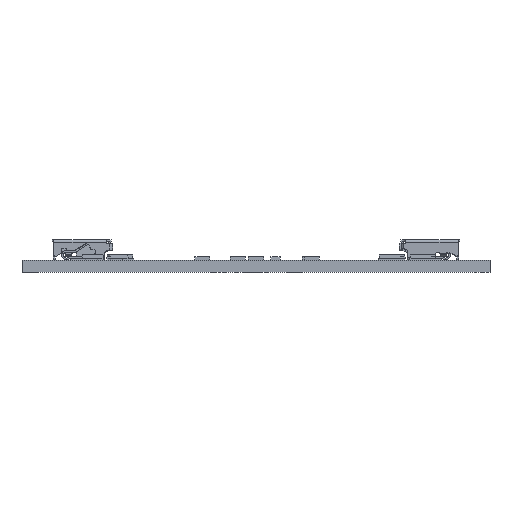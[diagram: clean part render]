
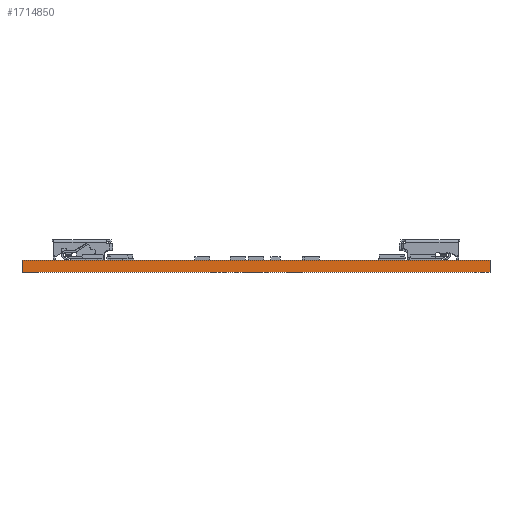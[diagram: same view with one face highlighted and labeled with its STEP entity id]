
A CAD part, front view. The second image highlights one B-rep face of the part: STEP entity #1714850.
In plain terms, the highlighted planar face has unit normal (0, -1, 0).
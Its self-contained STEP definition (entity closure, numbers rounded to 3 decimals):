
#809990=CARTESIAN_POINT('',(573.048,98.911,0.));
#810000=VERTEX_POINT('',#809990);
#810030=CARTESIAN_POINT('',(573.048,98.911,0.));
#810040=DIRECTION('',(-1.,0.,0.));
#810050=VECTOR('',#810040,0.039);
#810060=LINE('',#810030,#810050);
#810070=CARTESIAN_POINT('',(511.048,98.911,0.));
#810080=VERTEX_POINT('',#810070);
#810090=EDGE_CURVE('',#810000,#810080,#810060,.T.);
#1712780=CARTESIAN_POINT('',(511.048,98.911,-1.6));
#1712790=VERTEX_POINT('',#1712780);
#1712840=CARTESIAN_POINT('',(573.048,98.911,-1.6));
#1712850=DIRECTION('',(-1.,0.,0.));
#1712860=VECTOR('',#1712850,0.039);
#1712870=LINE('',#1712840,#1712860);
#1712880=CARTESIAN_POINT('',(573.048,98.911,-1.6));
#1712890=VERTEX_POINT('',#1712880);
#1712900=EDGE_CURVE('',#1712890,#1712790,#1712870,.T.);
#1714460=CARTESIAN_POINT('',(511.048,98.911,0.));
#1714470=DIRECTION('',(0.,0.,-1.));
#1714480=VECTOR('',#1714470,1.);
#1714490=LINE('',#1714460,#1714480);
#1714500=EDGE_CURVE('',#810080,#1712790,#1714490,.T.);
#1714690=CARTESIAN_POINT('',(573.048,98.911,0.));
#1714700=DIRECTION('',(0.,1.,0.));
#1714710=DIRECTION('',(1.,-0.,0.));
#1714720=AXIS2_PLACEMENT_3D('',#1714690,#1714700,#1714710);
#1714730=PLANE('',#1714720);
#1714740=ORIENTED_EDGE('',*,*,#810090,.T.);
#1714750=CARTESIAN_POINT('',(573.048,98.911,0.));
#1714760=DIRECTION('',(0.,0.,-1.));
#1714770=VECTOR('',#1714760,1.);
#1714780=LINE('',#1714750,#1714770);
#1714790=EDGE_CURVE('',#810000,#1712890,#1714780,.T.);
#1714800=ORIENTED_EDGE('',*,*,#1714790,.F.);
#1714810=ORIENTED_EDGE('',*,*,#1712900,.F.);
#1714820=ORIENTED_EDGE('',*,*,#1714500,.T.);
#1714830=EDGE_LOOP('',(#1714820,#1714810,#1714800,#1714740));
#1714840=FACE_OUTER_BOUND('',#1714830,.T.);
#1714850=ADVANCED_FACE('',(#1714840),#1714730,.F.);
